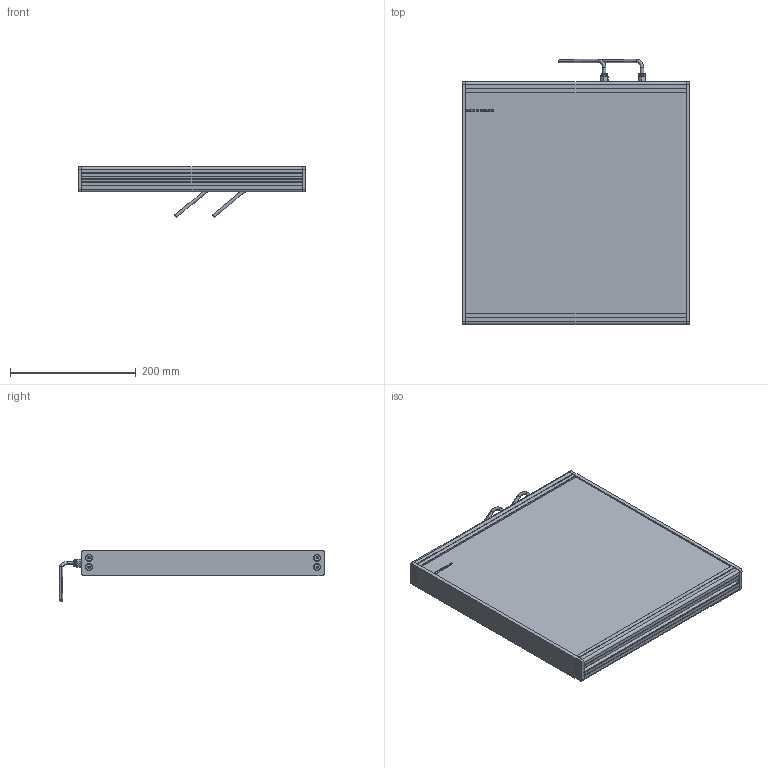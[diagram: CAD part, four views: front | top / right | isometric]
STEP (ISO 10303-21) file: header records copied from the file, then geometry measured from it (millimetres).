
FILE_DESCRIPTION (( 'STEP AP214' ), '1' );
FILE_NAME ('EFFI-BL-350T-350-2M12.STEP', '2021-06-28T09:25:42', ( '' ), ( '' ), 'SwSTEP 2.0', 'SolidWorks 2021', '' );
FILE_SCHEMA (( 'AUTOMOTIVE_DESIGN' ));
Length unit declared in the file: millimetre
Products named in the file (7): EFFI-BL-350T-350-2M12; profile modif_lg 99.5 mm; bord fin modif_lg 436.5 mm; cordon_Avec cable; Pièce2^EFFI-BL-XXXT-YYY + 2 M12; 003776
Assembly tree (15 placements, depth 2):
  EFFI-BL-350T-350-2M12
    profile modif_lg 99.5 mm
    bord fin modif_lg 436.5 mm  x2
    Pièce2^EFFI-BL-XXXT-YYY + 2 M12
    profile modif_lg 99.5 mm
    003776  x8
    cordon_Avec cable  x2
Bounding box: 360 x 421.15 x 80.73 mm (x, y, z)
Volume: 4805039.6 mm3; surface area: 476870.6 mm2
Topology: 13 solids, 25 shells, 669 faces, 1688 edges, 1082 vertices
Faces by surface type: plane 376, bspline 137, cylinder 116, cone 20, torus 20
Entity records: 16397 total; most frequent: CARTESIAN_POINT 5293, ORIENTED_EDGE 2162, DIRECTION 1887, EDGE_CURVE 1085, VECTOR 793, LINE 793, VERTEX_POINT 715, AXIS2_PLACEMENT_3D 547
